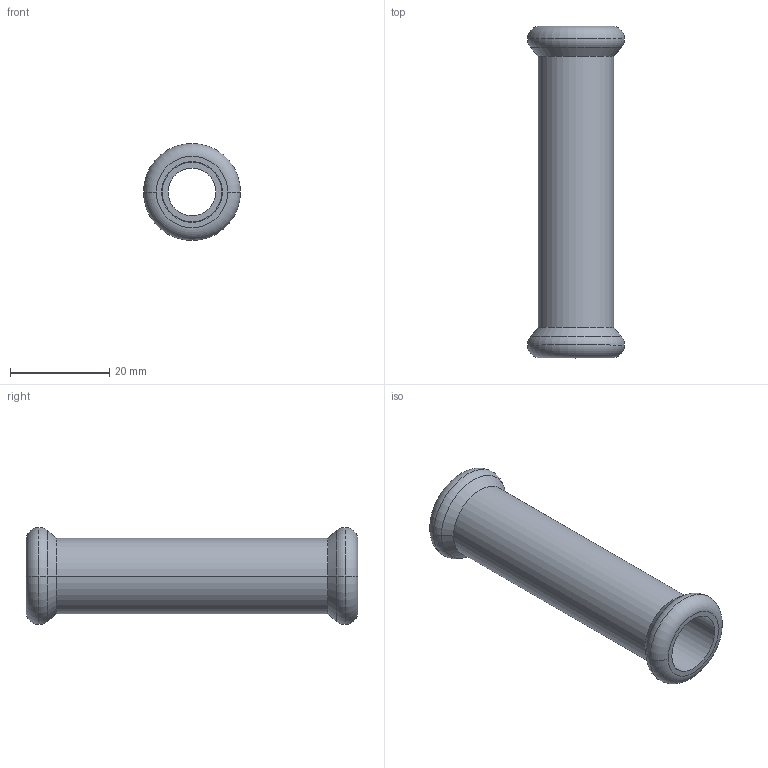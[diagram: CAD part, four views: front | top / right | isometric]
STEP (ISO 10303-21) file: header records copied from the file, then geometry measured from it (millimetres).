
FILE_DESCRIPTION(('CoCreate Modeling STEP Export'),'2;1');
FILE_NAME('C1403 12x12.stp','2014-11-07T14:02:33',(''),(''),'CoCreate Modeling STEP processor for AP214 (Solid Model)','CoCreate Modeling 17.00A 17-Jun-2010 (C) Parametric Technology GmbH','');
FILE_SCHEMA(('AUTOMOTIVE_DESIGN { 1 0 10303 214 1 1 1 1 }'));
Length unit declared in the file: millimetre
Products named in the file (2): C1403_12x12
Assembly tree (1 placements, depth 2):
  C1403_12x12
    C1403_12x12
Bounding box: 19.6 x 67 x 19.6 mm (x, y, z)
Volume: 6797.2 mm3; surface area: 6113.5 mm2
Topology: 1 solids, 1 shells, 30 faces, 62 edges, 38 vertices
Faces by surface type: cylinder 12, torus 8, plane 6, cone 4
Entity records: 691 total; most frequent: ORIENTED_EDGE 124, DIRECTION 104, CARTESIAN_POINT 98, EDGE_CURVE 62, AXIS2_PLACEMENT_3D 44, VERTEX_POINT 38, EDGE_LOOP 36, FACE_OUTER_BOUND 30
